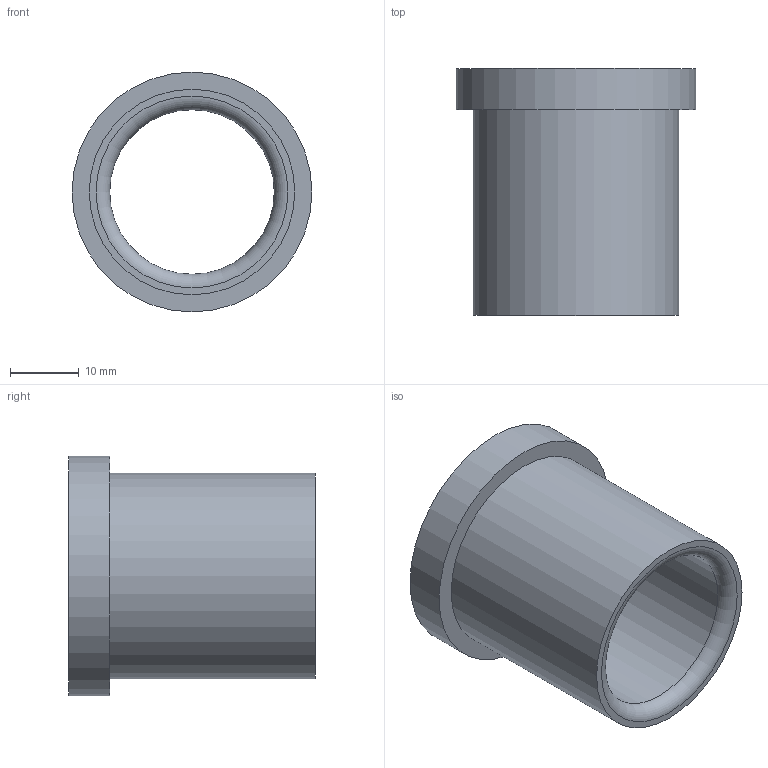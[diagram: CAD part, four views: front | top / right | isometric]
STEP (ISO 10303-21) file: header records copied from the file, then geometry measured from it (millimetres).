
FILE_DESCRIPTION(/* description */ ('STEP AP214'),/* implementation_level */ '2;1');
FILE_NAME(/* name */ '03_12_17935',/* time_stamp */ '2023-06-15T11:35:35+02:00',/* author */ ('License CC BY-ND 4.0'),/* organization */ ('CADENAS'),/* preprocessor_version */ 'ST-DEVELOPER v19.3',/* originating_system */ 'PARTsolutions',/* authorisation */ ' ');
FILE_SCHEMA (('AUTOMOTIVE_DESIGN {1 0 10303 214 3 1 1}'));
Length unit declared in the file: millimetre
Products named in the file (1): VA_Bushing_17935
Bounding box: 35 x 36 x 35 mm (x, y, z)
Volume: 10391.6 mm3; surface area: 7107 mm2
Topology: 1 solids, 1 shells, 10 faces, 16 edges, 10 vertices
Faces by surface type: cylinder 4, plane 4, torus 2
Full cylindrical faces by diameter (mm): 24 x1, 24.6 x1, 30 x1, 35 x1
Entity records: 302 total; most frequent: DIRECTION 42, CARTESIAN_POINT 31, AXIS2_PLACEMENT_3D 21, ORIENTED_EDGE 20, EDGE_LOOP 20, FACE_BOUND 20, EDGE_CURVE 10, VERTEX_POINT 10
